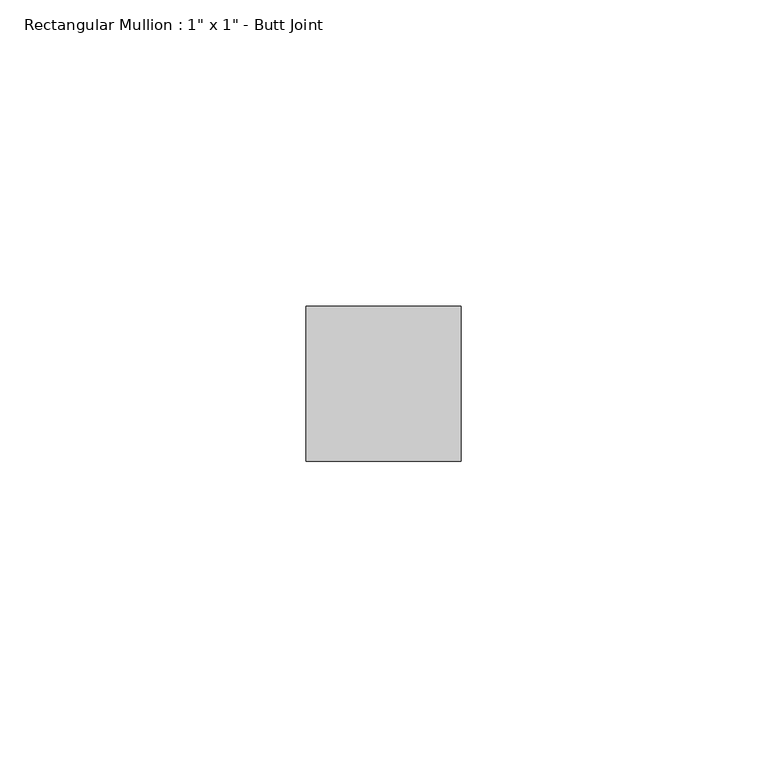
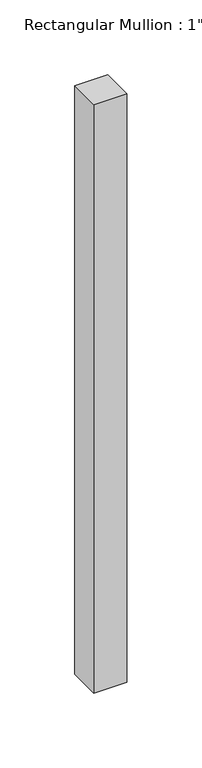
"""IFC4 building model written with IfcOpenShell, lengths in millimetres: member geometry."""

from ifc_helpers import new_model, si_unit, frame, origin, place, context, project, spatial, polyline, outline, extrude, source, transform, mapped, element, save


def member_aa53491b(model_context):
    return source(origin(), model_context, "Body", "SweptSolid", [
        extrude(outline(polyline([(12.7, 12.7), (12.7, -12.7), (-12.7, -12.7), (-12.7, 12.7), (12.7, 12.7)])), frame((0.0, 0.0, -480.06), z_axis=(0.0, 0.0, 1.0), x_axis=(1.0, 0.0, 0.0)), (0.0, 0.0, 1.0), 480.06),
    ])


if __name__ == "__main__":
    model = new_model("IFC4")
    model_context = context("Model", 3, world=origin())
    ifc_project = project(units=[si_unit("LENGTHUNIT", "METRE", prefix="MILLI")], contexts=[model_context])
    site = spatial("IfcSite", under=ifc_project)
    building = spatial("IfcBuilding", under=site)
    placement = place(None, origin())
    member_shape = member_aa53491b(model_context)
    element("IfcMember", 1, ObjectType="Rectangular Mullion : 1\" x 1\" - Butt Joint", at=placement, inside=building, context=model_context, shape_type="MappedRepresentation", body=[
        mapped(member_shape, transform((0.0, 0.0, 0.0), x_axis=(1.0, 0.0, 0.0), y_axis=(0.0, 1.0, 0.0), z_axis=(0.0, 0.0, 1.0))),
    ])
    save(model, "model.ifc")
